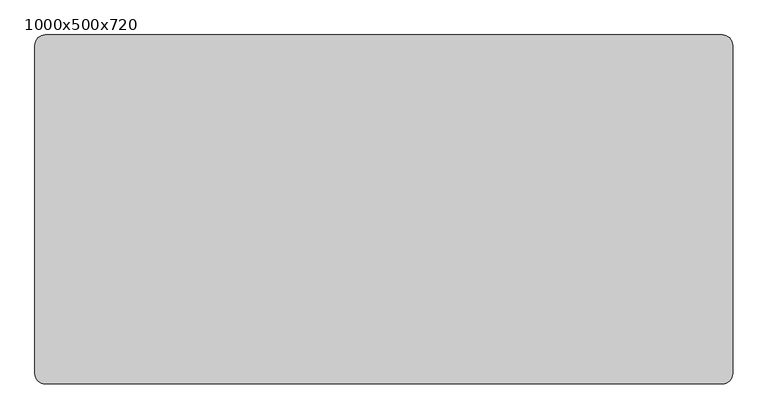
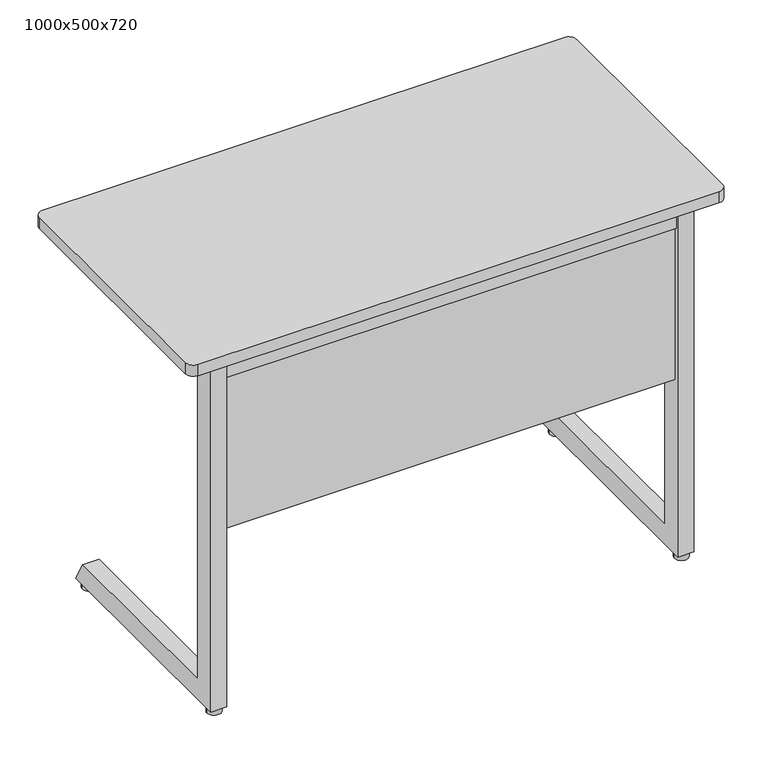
"""IFC4 building model written with IfcOpenShell, lengths in millimetres: furniture geometry, Trivia Light : 1000x500x720."""

from ifc_helpers import new_model, si_unit, point, frame, frame_2d, origin, origin_with_axes, place, context, project, spatial, polyline, circle_curve, trimmed, segment, composite_curve, outline, extrude, source, transform, mapped, element, save


def furniture_1000x500x720_1ab4b6b9(model_context):
    return source(origin(), model_context, "Body", "SweptSolid", [
        extrude(outline(polyline([(434.5100173, 698.0), (419.9996059, 666.4981092), (54.0, 666.4977978), (54.0, 698.0), (434.5100173, 698.0)])), frame((-364.7535601, 0.0, 0.0), z_axis=(1.0, 0.0, 0.0), x_axis=(0.0, 1.0, 0.0)), (0.0, 0.0, 1.0), 30.0),
        extrude(outline(polyline([(693.7997437, -367.7502136), (670.730957, -367.7502136), (670.730957, -399.8065042), (675.0394353, -411.6439509), (672.2203574, -412.6700113), (667.730957, -400.3354852), (667.730957, -364.7502136), (693.7997437, -364.7502136), (693.7997437, -367.7502136)])), frame((0.0, 215.0, 0.0), z_axis=(0.0, 1.0, 0.0), x_axis=(0.0, 0.0, 1.0)), (0.0, 0.0, 1.0), 30.0),
        extrude(outline(polyline([(693.7997437, 367.7535601), (693.7997437, 364.7535601), (667.730957, 364.7535601), (667.730957, 400.3388316), (672.2203574, 412.6733577), (675.0394353, 411.6472973), (670.730957, 399.8098507), (670.730957, 367.7535601), (693.7997437, 367.7535601)])), frame((0.0, 215.0, 0.0), z_axis=(0.0, 1.0, 0.0), x_axis=(0.0, 0.0, 1.0)), (0.0, 0.0, 1.0), 30.0),
        extrude(outline(composite_curve([segment(trimmed(circle_curve(frame_2d((-435.0, 35.0)), 13.0), [point((-448.0, 35.0))], [point((-422.0, 35.0))], False, "CARTESIAN"), True, "CONTINUOUS"), segment(trimmed(circle_curve(frame_2d((-435.0, 35.0)), 13.0), [point((-422.0, 35.0))], [point((-448.0, 35.0))], False, "CARTESIAN"), True, "CONTINUOUS")], self_intersect=False)), origin_with_axes(), (0.0, 0.0, 1.0), 13.0905762),
        extrude(outline(composite_curve([segment(trimmed(circle_curve(frame_2d((435.0, 35.0)), 13.0), [point((422.0, 35.0))], [point((448.0, 35.0))], False, "CARTESIAN"), True, "CONTINUOUS"), segment(trimmed(circle_curve(frame_2d((435.0, 35.0)), 13.0), [point((448.0, 35.0))], [point((422.0, 35.0))], False, "CARTESIAN"), True, "CONTINUOUS")], self_intersect=False)), origin_with_axes(), (0.0, 0.0, 1.0), 13.0905762),
        extrude(outline(composite_curve([segment(trimmed(circle_curve(frame_2d((435.0, 437.5)), 13.0), [point((422.0, 437.5))], [point((448.0, 437.5))], False, "CARTESIAN"), True, "CONTINUOUS"), segment(trimmed(circle_curve(frame_2d((435.0, 437.5)), 13.0), [point((448.0, 437.5))], [point((422.0, 437.5))], False, "CARTESIAN"), True, "CONTINUOUS")], self_intersect=False)), origin_with_axes(), (0.0, 0.0, 1.0), 13.0905762),
        extrude(outline(composite_curve([segment(trimmed(circle_curve(frame_2d((-435.0, 437.5)), 13.0), [point((-448.0, 437.5))], [point((-422.0, 437.5))], False, "CARTESIAN"), True, "CONTINUOUS"), segment(trimmed(circle_curve(frame_2d((-435.0, 437.5)), 13.0), [point((-422.0, 437.5))], [point((-448.0, 437.5))], False, "CARTESIAN"), True, "CONTINUOUS")], self_intersect=False)), origin_with_axes(), (0.0, 0.0, 1.0), 13.0905762),
        extrude(outline(polyline([(434.5100173, 698.0), (419.9996059, 666.4981092), (54.0, 666.4977978), (54.0, 698.0), (434.5100173, 698.0)])), frame((334.7535601, 0.0, 0.0), z_axis=(1.0, 0.0, 0.0), x_axis=(0.0, 1.0, 0.0)), (0.0, 0.0, 1.0), 30.0),
        extrude(outline(composite_curve([segment(trimmed(circle_curve(frame_2d((485.0, 485.0)), 15.0), [point((485.0, 500.0))], [point((500.0, 485.0))], False, "CARTESIAN"), True, "CONTINUOUS"), segment(polyline([(500.0, 485.0), (500.0, 15.0)]), True, "CONTINUOUS"), segment(trimmed(circle_curve(frame_2d((485.0, 15.0)), 15.0), [point((500.0, 15.0))], [point((485.0, 0.0))], False, "CARTESIAN"), True, "CONTINUOUS"), segment(polyline([(485.0, 0.0), (-485.0, 0.0)]), True, "CONTINUOUS"), segment(trimmed(circle_curve(frame_2d((-485.0, 15.0)), 15.0), [point((-485.0, 0.0))], [point((-500.0, 15.0))], False, "CARTESIAN"), True, "CONTINUOUS"), segment(polyline([(-500.0, 15.0), (-500.0, 485.0)]), True, "CONTINUOUS"), segment(trimmed(circle_curve(frame_2d((-485.0, 485.0)), 15.0), [point((-500.0, 485.0))], [point((-485.0, 500.0))], False, "CARTESIAN"), True, "CONTINUOUS"), segment(polyline([(-485.0, 500.0), (485.0, 500.0)]), True, "CONTINUOUS")], self_intersect=False)), frame((0.0, 0.0, 698.0), z_axis=(0.0, 0.0, 1.0), x_axis=(1.0, 0.0, 0.0)), (0.0, 0.0, 1.0), 22.0),
        extrude(outline(polyline([(419.7534307, 54.0), (419.7534307, 24.0), (-419.7534307, 24.0), (-419.7534307, 54.0), (419.7534307, 54.0)])), frame((0.0, 0.0, 656.0), z_axis=(0.0, 0.0, 1.0), x_axis=(1.0, 0.0, 0.0)), (0.0, 0.0, 1.0), 42.0),
        extrude(outline(polyline([(62.0, 51.5905762), (432.1448423, 51.5905762), (454.8944033, 11.5905762), (20.0, 11.5905762), (20.0, 698.0), (62.0, 698.0), (62.0, 51.5905762)])), frame((-449.7535601, 0.0, 0.0), z_axis=(1.0, 0.0, 0.0), x_axis=(0.0, 1.0, 0.0)), (0.0, 0.0, 1.0), 30.0001294),
        extrude(outline(polyline([(62.0, 51.5905762), (432.1448423, 51.5905762), (454.8944033, 11.5905762), (20.0, 11.5905762), (20.0, 698.0), (62.0, 698.0), (62.0, 51.5905762)])), frame((419.7534307, 0.0, 0.0), z_axis=(1.0, 0.0, 0.0), x_axis=(0.0, 1.0, 0.0)), (0.0, 0.0, 1.0), 30.0001294),
        extrude(outline(polyline([(419.7534307, 45.9187166), (419.7534307, 27.9321552), (-419.7534307, 27.9321552), (-419.7534307, 45.9187166), (419.7534307, 45.9187166)])), frame((0.0, 0.0, 356.5950628), z_axis=(0.0, 0.0, 1.0), x_axis=(1.0, 0.0, 0.0)), (0.0, 0.0, 1.0), 299.4049372),
    ])


if __name__ == "__main__":
    model = new_model("IFC4")
    model_context = context("Model", 3, world=origin())
    ifc_project = project(units=[si_unit("LENGTHUNIT", "METRE", prefix="MILLI")], contexts=[model_context])
    site = spatial("IfcSite", under=ifc_project)
    building = spatial("IfcBuilding", under=site)
    placement = place(None, origin())
    furniture_1000x500x720_shape = furniture_1000x500x720_1ab4b6b9(model_context)
    element("IfcFurniture", 1, ObjectType="Trivia Light : 1000x500x720", at=placement, inside=building, context=model_context, shape_type="MappedRepresentation", body=[
        mapped(furniture_1000x500x720_shape, transform((0.0, 0.0, 0.0), x_axis=(1.0, 0.0, 0.0), y_axis=(0.0, 1.0, 0.0), z_axis=(0.0, 0.0, 1.0))),
    ])
    save(model, "model.ifc")
